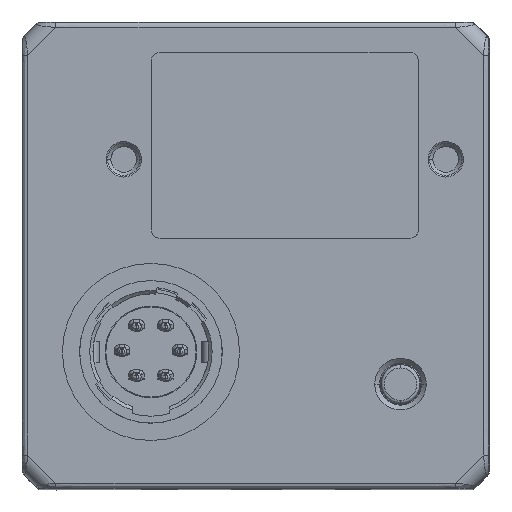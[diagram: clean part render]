
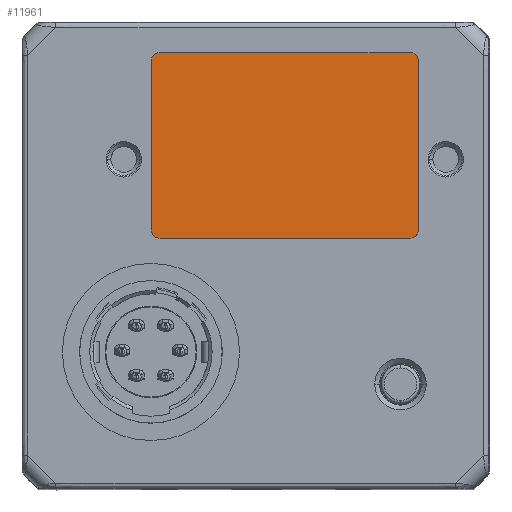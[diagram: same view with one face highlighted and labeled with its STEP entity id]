
A CAD part, top view. The second image highlights one B-rep face of the part: STEP entity #11961.
In plain terms, the highlighted planar face has unit normal (0, 0, 1).
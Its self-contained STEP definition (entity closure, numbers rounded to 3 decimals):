
#1905=DIRECTION('',(1.,0.,0.));
#1906=VECTOR('',#1905,0.305);
#1907=CARTESIAN_POINT('',(13.673,-11.718,24.5));
#1908=LINE('',#1907,#1906);
#1917=DIRECTION('',(0.017,1.,0.));
#1918=VECTOR('',#1917,1.303);
#1919=CARTESIAN_POINT('',(13.65,-13.021,24.5));
#1920=LINE('',#1919,#1918);
#2019=DIRECTION('',(-1.,0.,0.));
#2020=VECTOR('',#2019,4.257);
#2021=CARTESIAN_POINT('',(-9.285,-13.021,24.5));
#2022=LINE('',#2021,#2020);
#2067=DIRECTION('',(-1.,0.,0.));
#2068=VECTOR('',#2067,4.365);
#2069=CARTESIAN_POINT('',(13.65,-13.021,24.5));
#2070=LINE('',#2069,#2068);
#3589=DIRECTION('',(0.,1.,0.));
#3590=VECTOR('',#3589,0.039);
#3591=CARTESIAN_POINT('',(9.285,-13.06,24.5));
#3592=LINE('',#3591,#3590);
#3602=DIRECTION('',(0.,1.,0.));
#3603=VECTOR('',#3602,0.039);
#3604=CARTESIAN_POINT('',(-9.285,-13.06,24.5));
#3605=LINE('',#3604,#3603);
#3606=DIRECTION('',(0.,-1.,0.));
#3607=VECTOR('',#3606,24.713);
#3608=CARTESIAN_POINT('',(13.977,12.995,24.5));
#3609=LINE('',#3608,#3607);
#3610=DIRECTION('',(-1.,0.,0.));
#3611=VECTOR('',#3610,27.519);
#3612=CARTESIAN_POINT('',(13.977,12.995,24.5));
#3613=LINE('',#3612,#3611);
#3658=DIRECTION('',(-1.,0.,0.));
#3659=VECTOR('',#3658,18.57);
#3660=CARTESIAN_POINT('',(9.285,-13.06,24.5));
#3661=LINE('',#3660,#3659);
#4039=DIRECTION('',(0.,-1.,0.));
#4040=VECTOR('',#4039,26.016);
#4041=CARTESIAN_POINT('',(-13.542,12.995,24.5));
#4042=LINE('',#4041,#4040);
#6074=CARTESIAN_POINT('',(13.977,12.995,24.5));
#6075=CARTESIAN_POINT('',(-13.542,12.995,24.5));
#6076=VERTEX_POINT('',#6074);
#6077=VERTEX_POINT('',#6075);
#6248=CARTESIAN_POINT('',(13.977,-11.718,24.5));
#6249=VERTEX_POINT('',#6248);
#6250=CARTESIAN_POINT('',(13.673,-11.718,24.5));
#6251=VERTEX_POINT('',#6250);
#6260=CARTESIAN_POINT('',(13.65,-13.021,24.5));
#6261=CARTESIAN_POINT('',(9.285,-13.021,24.5));
#6262=VERTEX_POINT('',#6260);
#6263=VERTEX_POINT('',#6261);
#6264=CARTESIAN_POINT('',(-9.285,-13.021,24.5));
#6265=CARTESIAN_POINT('',(-13.542,-13.021,24.5));
#6266=VERTEX_POINT('',#6264);
#6267=VERTEX_POINT('',#6265);
#6272=CARTESIAN_POINT('',(9.285,-13.06,24.5));
#6273=CARTESIAN_POINT('',(-9.285,-13.06,24.5));
#6274=VERTEX_POINT('',#6272);
#6275=VERTEX_POINT('',#6273);
#11942=CARTESIAN_POINT('',(0.,0.,24.5));
#11943=DIRECTION('',(0.,0.,1.));
#11944=DIRECTION('',(-1.,0.,0.));
#11945=AXIS2_PLACEMENT_3D('',#11942,#11943,#11944);
#11946=PLANE('',#11945);
#11947=ORIENTED_EDGE('',*,*,#8664,.T.);
#11948=ORIENTED_EDGE('',*,*,#8747,.F.);
#11949=ORIENTED_EDGE('',*,*,#8771,.F.);
#11950=ORIENTED_EDGE('',*,*,#8826,.T.);
#11951=ORIENTED_EDGE('',*,*,#11904,.F.);
#11953=ORIENTED_EDGE('',*,*,#11952,.T.);
#11954=ORIENTED_EDGE('',*,*,#11933,.T.);
#11955=ORIENTED_EDGE('',*,*,#8808,.T.);
#11957=ORIENTED_EDGE('',*,*,#11956,.F.);
#11958=ORIENTED_EDGE('',*,*,#8632,.F.);
#11959=EDGE_LOOP('',(#11947,#11948,#11949,#11950,#11951,#11953,#11954,#11955,
#11957,#11958));
#11960=FACE_OUTER_BOUND('',#11959,.F.);
#11961=ADVANCED_FACE('',(#11960),#11946,.T.);
#8632=EDGE_CURVE('',#6076,#6077,#3613,.T.);
#8664=EDGE_CURVE('',#6076,#6249,#3609,.T.);
#8747=EDGE_CURVE('',#6251,#6249,#1908,.T.);
#8771=EDGE_CURVE('',#6262,#6251,#1920,.T.);
#8808=EDGE_CURVE('',#6266,#6267,#2022,.T.);
#8826=EDGE_CURVE('',#6262,#6263,#2070,.T.);
#11904=EDGE_CURVE('',#6274,#6263,#3592,.T.);
#11933=EDGE_CURVE('',#6275,#6266,#3605,.T.);
#11952=EDGE_CURVE('',#6274,#6275,#3661,.T.);
#11956=EDGE_CURVE('',#6077,#6267,#4042,.T.);
